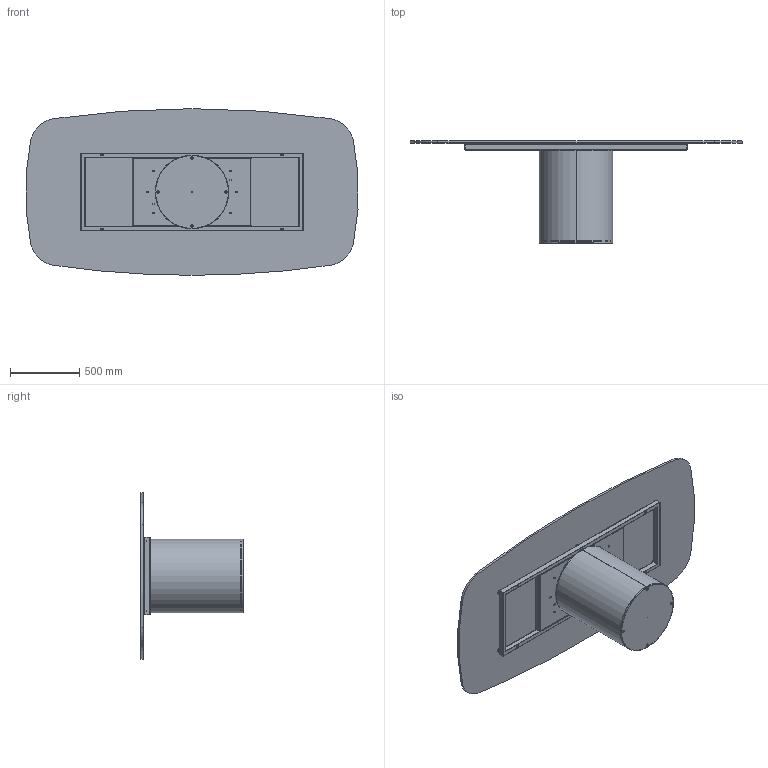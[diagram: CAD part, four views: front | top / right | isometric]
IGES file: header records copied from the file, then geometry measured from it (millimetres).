
Start section: SolidWorks IGES file using analytic representation for surfaces
Global section: file name: Y:\eforma\TECNICO\SOLIDWORKS\E-FORMA\1-TAVOLI\CILINDRO\02 parts\CI43G.IGS; native system: SolidWorks 2022; preprocessor: SolidWorks 2022; author: eforma.tech; date: 240808.092627; units: millimetre
Bounding box: 2391.62 x 735 x 1200 mm (x, y, z)
Volume: 48504999.2 mm3; surface area: 10518070 mm2
Topology: 24 solids, 24 shells, 569 faces, 1333 edges, 788 vertices
Faces by surface type: revolution 317, plane 252
